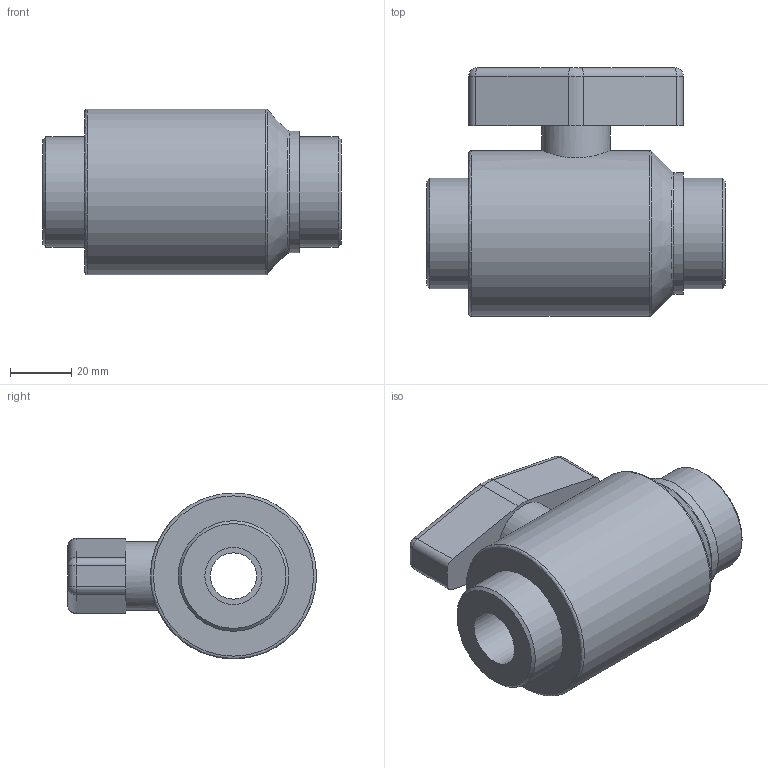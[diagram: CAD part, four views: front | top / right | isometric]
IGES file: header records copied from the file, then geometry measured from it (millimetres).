
Global section: file name: 0370300005_037030F005.ipt; native system: Autodesk Inventor 2015; preprocessor: unknown; author: KIM; date: 20190627.094217; units: millimetre
Bounding box: 97 x 81 x 54 mm (x, y, z)
Volume: 186303.4 mm3; surface area: 28204.6 mm2
Topology: 1 solids, 1 shells, 46 faces, 106 edges, 67 vertices
Faces by surface type: cylinder 17, plane 14, revolution 8, sphere 4, cone 3
Full cylindrical faces by diameter (mm): 22.357 x1, 36 x2, 39.6 x1, 54 x1
